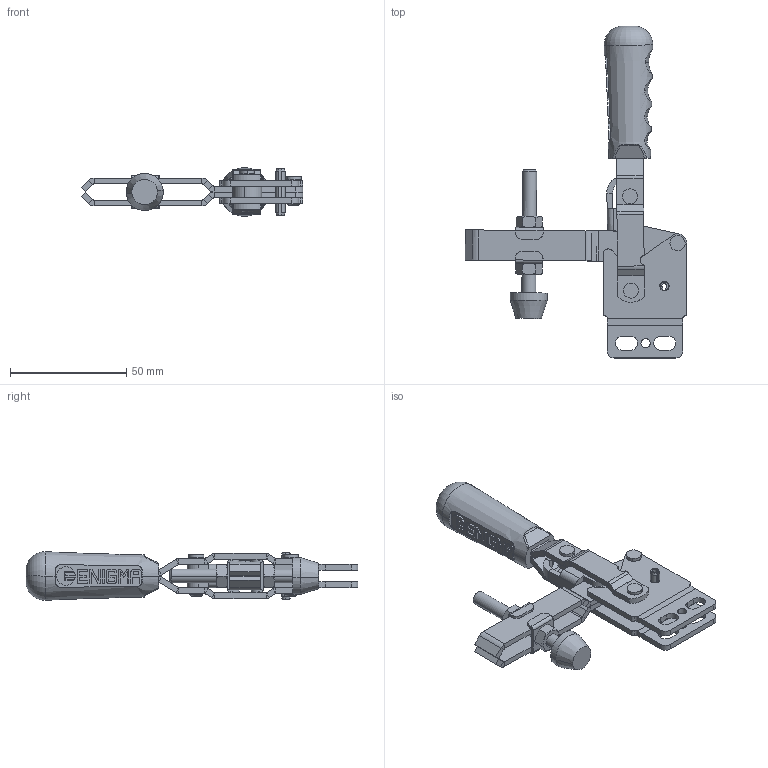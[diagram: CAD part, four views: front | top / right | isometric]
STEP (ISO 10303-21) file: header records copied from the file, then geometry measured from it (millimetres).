
FILE_DESCRIPTION (( 'STEP AP214' ), '1' );
FILE_NAME ('1102-D.STEP', '2022-05-31T12:23:40', ( '' ), ( '' ), 'SwSTEP 2.0', 'SolidWorks 2020', '' );
FILE_SCHEMA (( 'AUTOMOTIVE_DESIGN' ));
Length unit declared in the file: millimetre
Products named in the file (18): C55_Yeni_Tutamak; 4x12_5_PERﾇﾝN; 1102 Y_GÖVDE_REV01_2022; M6 Somun; 4x20_YARIKLI_P嵱; M6 Aský; 1102 MAFSAL_2022; 1102 BASKI KOLU_2022; M6_BASKI_GRUBU^1102_Y_MONTAJ_REV01; M6 Baský; 1102-D; 1102 HAREKET KOLU_2022; 7x4x10_BURÇ; Aynalama1102 BASKI KOLU_2022; 4x17_PERﾇﾝN; Aynalama1102 HAREKET KOLU_2022; Aynalama1102 Y_GÖVDE_REV01_2022; Ø12,5xØ7,5x5_YÜZÜK
Assembly tree (21 placements, depth 3):
  1102-D
    1102 Y_GÖVDE_REV01_2022
    1102 BASKI KOLU_2022
    1102 HAREKET KOLU_2022
    Aynalama1102 Y_GÖVDE_REV01_2022
    1102 MAFSAL_2022
    4x12_5_PERﾇﾝN  x2
    4x17_PERﾇﾝN  x2
    7x4x10_BURÇ
    4x20_YARIKLI_P嵱
    Ø12,5xØ7,5x5_YÜZÜK
    M6_BASKI_GRUBU^1102_Y_MONTAJ_REV01
      M6 Aský  x2
      M6 Somun  x2
      M6 Baský
    Aynalama1102 HAREKET KOLU_2022
    Aynalama1102 BASKI KOLU_2022
    C55_Yeni_Tutamak
Bounding box: 95.5 x 143.05 x 20.98 mm (x, y, z)
Volume: 40111.3 mm3; surface area: 33352.8 mm2
Topology: 20 solids, 20 shells, 910 faces, 2209 edges, 1368 vertices
Faces by surface type: plane 577, cylinder 253, cone 36, torus 34, bspline 10
Entity records: 24190 total; most frequent: CARTESIAN_POINT 5426, DIRECTION 3807, ORIENTED_EDGE 3654, EDGE_CURVE 1827, AXIS2_PLACEMENT_3D 1291, LINE 1225, VECTOR 1225, VERTEX_POINT 1132
